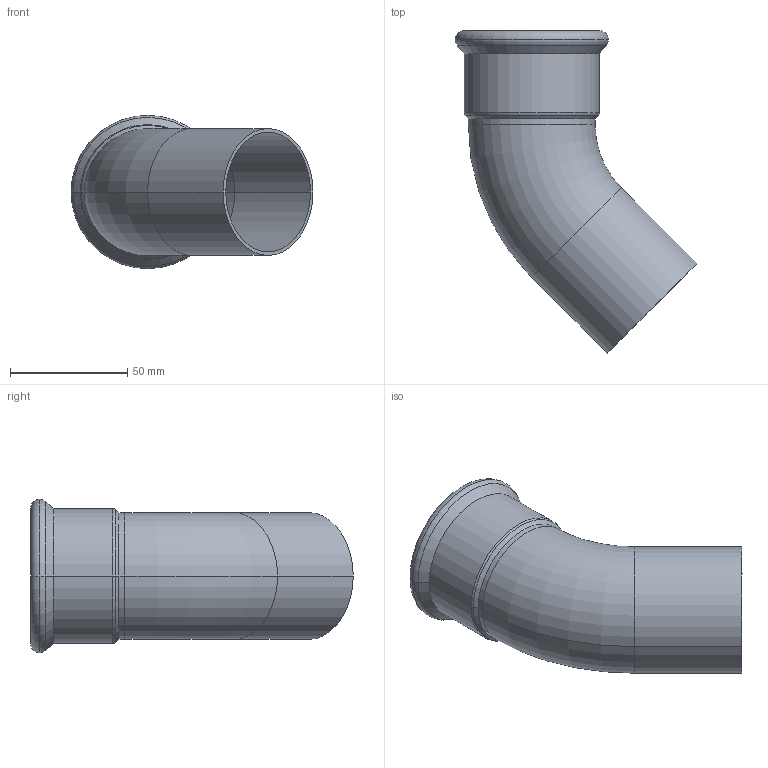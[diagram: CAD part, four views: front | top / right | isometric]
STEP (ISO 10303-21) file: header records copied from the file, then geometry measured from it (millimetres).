
FILE_DESCRIPTION(('CoCreate Modeling STEP Export'),'2;1');
FILE_NAME('C1412 54x54.stp','2014-11-11T16:44:12',(''),(''),'CoCreate Modeling STEP processor for AP214 (Solid Model)','CoCreate Modeling 17.00A 17-Jun-2010 (C) Parametric Technology GmbH','');
FILE_SCHEMA(('AUTOMOTIVE_DESIGN { 1 0 10303 214 1 1 1 1 }'));
Length unit declared in the file: millimetre
Products named in the file (2): C1412_54x54
Assembly tree (1 placements, depth 2):
  C1412_54x54
    C1412_54x54
Bounding box: 103.01 x 137.26 x 65.3 mm (x, y, z)
Volume: 39739.1 mm3; surface area: 47753.5 mm2
Topology: 1 solids, 1 shells, 32 faces, 68 edges, 40 vertices
Faces by surface type: cylinder 14, torus 10, cone 4, plane 4
Entity records: 748 total; most frequent: ORIENTED_EDGE 136, DIRECTION 116, CARTESIAN_POINT 107, EDGE_CURVE 68, AXIS2_PLACEMENT_3D 49, VERTEX_POINT 40, EDGE_LOOP 36, FACE_OUTER_BOUND 32
